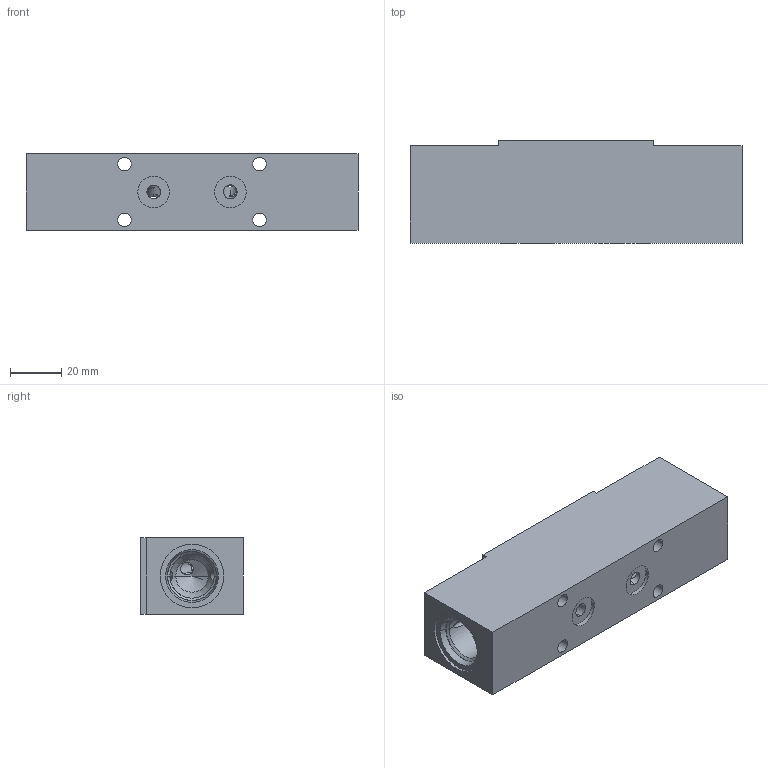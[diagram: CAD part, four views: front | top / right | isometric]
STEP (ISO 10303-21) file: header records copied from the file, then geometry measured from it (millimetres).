
FILE_DESCRIPTION((''),'2;1');
FILE_NAME('27302700','2020-09-09T',('l.soukupova'),(''),'PRO/ENGINEER BY PARAMETRIC TECHNOLOGY CORPORATION, 2015440','PRO/ENGINEER BY PARAMETRIC TECHNOLOGY CORPORATION, 2015440','');
FILE_SCHEMA(('AUTOMOTIVE_DESIGN { 1 0 10303 214 1 1 1 1 }'));
Length unit declared in the file: millimetre
Products named in the file (1): 27302700
Bounding box: 130 x 40 x 30 mm (x, y, z)
Volume: 129073.5 mm3; surface area: 31470.7 mm2
Topology: 1 solids, 3 shells, 90 faces, 294 edges, 234 vertices
Faces by surface type: cylinder 48, cone 26, plane 16
Entity records: 5857 total; most frequent: CARTESIAN_POINT 2101, DIRECTION 509, ORIENTED_EDGE 482, PRESENTATION_STYLE_ASSIGNMENT 328, STYLED_ITEM 308, CURVE_STYLE 305, EDGE_CURVE 245, AXIS2_PLACEMENT_3D 189
